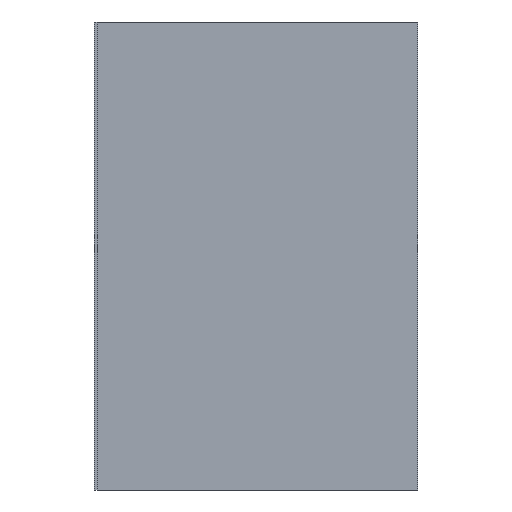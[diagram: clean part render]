
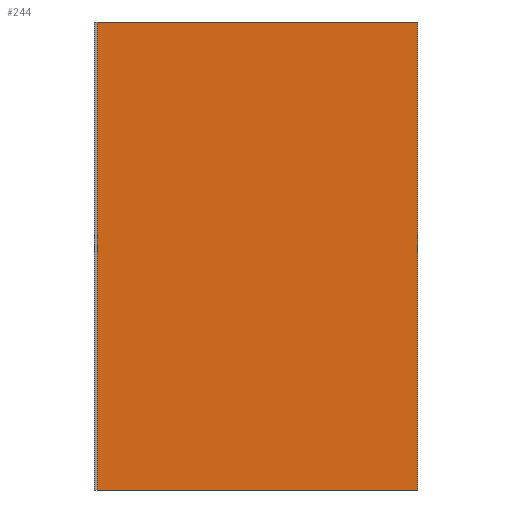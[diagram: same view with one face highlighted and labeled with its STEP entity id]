
A CAD part, front view. The second image highlights one B-rep face of the part: STEP entity #244.
In plain terms, the highlighted planar face has unit normal (0, -1, 0).
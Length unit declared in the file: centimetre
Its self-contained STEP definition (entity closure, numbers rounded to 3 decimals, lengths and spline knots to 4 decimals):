
#12 = VERTEX_POINT ( 'NONE', #29 ) ;
#14 = EDGE_CURVE ( 'NONE', #62, #12, #212, .T. ) ;
#29 = CARTESIAN_POINT ( 'NONE',  ( 757.7112, -509.4725, 187.2 ) ) ;
#62 = VERTEX_POINT ( 'NONE', #382 ) ;
#83 = EDGE_LOOP ( 'NONE', ( #320, #87, #98, #274 ) ) ;
#87 = ORIENTED_EDGE ( 'NONE', *, *, #132, .F. ) ;
#98 = ORIENTED_EDGE ( 'NONE', *, *, #508, .F. ) ;
#119 = VERTEX_POINT ( 'NONE', #150 ) ;
#123 = DIRECTION ( 'NONE',  ( 0., 0., -1. ) ) ;
#131 = DIRECTION ( 'NONE',  ( 0., 0., -1. ) ) ;
#132 = EDGE_CURVE ( 'NONE', #282, #12, #387, .T. ) ;
#150 = CARTESIAN_POINT ( 'NONE',  ( 918.7112, -509.4725, 422. ) ) ;
#165 = PLANE ( 'NONE',  #180 ) ;
#167 = CARTESIAN_POINT ( 'NONE',  ( 918.7112, -509.4725, 187.2 ) ) ;
#180 = AXIS2_PLACEMENT_3D ( 'NONE', #203, #199, #123 ) ;
#182 = CARTESIAN_POINT ( 'NONE',  ( 757.7112, -509.4725, 422. ) ) ;
#188 = CARTESIAN_POINT ( 'NONE',  ( 918.7112, -509.4725, 187.7 ) ) ;
#199 = DIRECTION ( 'NONE',  ( 0., 1., 0. ) ) ;
#203 = CARTESIAN_POINT ( 'NONE',  ( 871.2112, -509.4725, 422. ) ) ;
#212 = LINE ( 'NONE', #182, #418 ) ;
#216 = EDGE_CURVE ( 'NONE', #62, #119, #363, .T. ) ;
#244 = ADVANCED_FACE ( 'NONE', ( #433 ), #165, .F. ) ;
#267 = DIRECTION ( 'NONE',  ( -1., 0., 0. ) ) ;
#274 = ORIENTED_EDGE ( 'NONE', *, *, #216, .F. ) ;
#282 = VERTEX_POINT ( 'NONE', #167 ) ;
#284 = VECTOR ( 'NONE', #267, 100. ) ;
#286 = CARTESIAN_POINT ( 'NONE',  ( 871.2112, -509.4725, 422. ) ) ;
#320 = ORIENTED_EDGE ( 'NONE', *, *, #14, .T. ) ;
#363 = LINE ( 'NONE', #286, #477 ) ;
#382 = CARTESIAN_POINT ( 'NONE',  ( 757.7112, -509.4725, 422. ) ) ;
#387 = LINE ( 'NONE', #424, #284 ) ;
#418 = VECTOR ( 'NONE', #131, 100. ) ;
#424 = CARTESIAN_POINT ( 'NONE',  ( 918.7112, -509.4725, 187.2 ) ) ;
#433 = FACE_OUTER_BOUND ( 'NONE', #83, .T. ) ;
#442 = DIRECTION ( 'NONE',  ( 1., 0., 0. ) ) ;
#460 = LINE ( 'NONE', #188, #478 ) ;
#463 = DIRECTION ( 'NONE',  ( 0., 0., -1. ) ) ;
#477 = VECTOR ( 'NONE', #442, 100. ) ;
#478 = VECTOR ( 'NONE', #463, 100. ) ;
#508 = EDGE_CURVE ( 'NONE', #119, #282, #460, .T. ) ;
